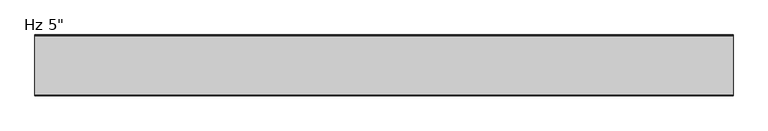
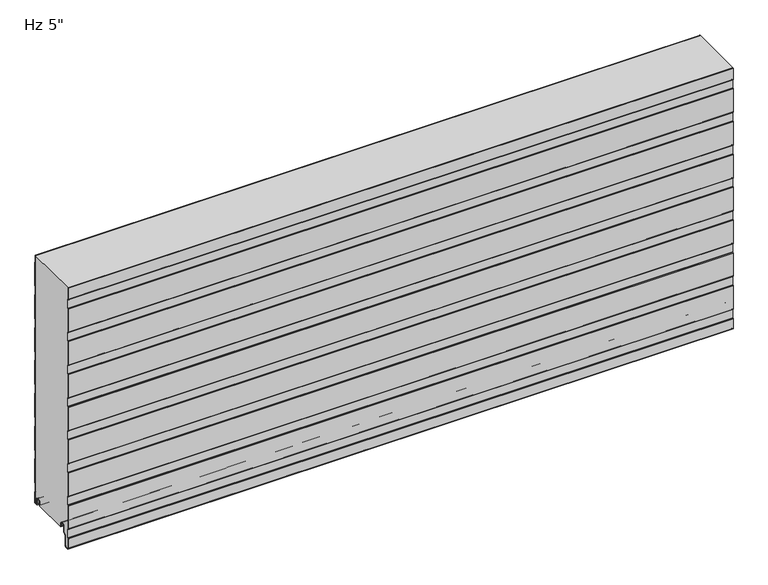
"""IFC4 building model written with IfcOpenShell, lengths in millimetres: plate geometry."""

from ifc_helpers import new_model, si_unit, point, frame, frame_2d, origin, place, context, project, spatial, polyline, circle_curve, trimmed, segment, composite_curve, outline, extrude, source, transform, mapped, element, save
from ifc_brep_helpers import plane_surface, cylinder_surface, revolved_surface, advanced_brep


def plate_4faf0529(model_context):
    return source(origin(), model_context, "Body", "SolidModel", [
        advanced_brep(
        [(-730.0, -17.0015368, 2.0313088), (-730.0, -18.00154, 1.0313116), (-730.0, -19.0015314, 2.0313088), (-730.0, -19.0015314, 6.0315125), (-730.0, -18.0015368, 6.0315125), (-730.0, -18.0015368, 8.7237223), (-730.0, -14.7015411, 12.023718), (-730.0, -10.3015499, 12.023718), (-730.0, -7.0015544, 8.7237225), (-730.0, -7.0015544, -1.6962564), (-730.0, -5.2315602, -3.4662506), (-730.0, -1.0000126, -3.4662506), (-730.0, -1.0000126, 21.034026), (-730.0, -2.2002516, 22.4196686), (-730.0, -2.2002516, 41.7948349), (-730.0, -1.0000209, 43.1804679), (-730.0, -1.0000209, 97.2338833), (-730.0, -2.2002516, 98.6195162), (-730.0, -2.2002516, 117.9946825), (-730.0, -1.0000209, 119.3803155), (-730.0, -1.0000209, 173.4337309), (-730.0, -2.2002516, 174.8193638), (-730.0, -2.2002516, 194.1945301), (-730.0, -1.0000209, 195.5801631), (-730.0, -1.0000209, 249.6335785), (-730.0, -2.2002516, 251.0192114), (-730.0, -2.2002516, 270.3943777), (-730.0, -1.0000209, 271.7800107), (-730.0, -1.0000209, 325.8334261), (-730.0, -2.2002516, 327.219059), (-730.0, -2.2002516, 346.5942253), (-730.0, -1.0000209, 347.9798583), (-730.0, -1.0000209, 402.0332737), (-730.0, -2.2002516, 403.4189066), (-730.0, -2.2002516, 422.7940729), (-730.0, -1.0000209, 424.1797059), (-730.0, -1.0000209, 478.2331213), (-730.0, -2.2002516, 479.6187542), (-730.0, -2.2002516, 498.9939205), (-730.0, -1.0000209, 500.3795535), (-730.0, -1.0000209, 554.4329689), (-730.0, -2.2002516, 555.8186018), (-730.0, -2.2002516, 571.2), (-730.0, -1.2002516, 571.2), (-730.0, -1.2002516, 556.1914823), (-730.0, -0.3418094, 555.2004346), (-730.0, -2.09e-05, 554.2838177), (-730.0, -2.09e-05, 500.5287046), (-730.0, -0.3418094, 499.6120877), (-730.0, -1.2002516, 498.6210401), (-730.0, -1.2002516, 479.9916347), (-730.0, -0.3418094, 479.000587), (-730.0, -2.09e-05, 478.0839701), (-730.0, -2.09e-05, 424.328857), (-730.0, -0.3418094, 423.4122401), (-730.0, -1.2002516, 422.4211925), (-730.0, -1.2002516, 403.7917871), (-730.0, -0.3418094, 402.8007394), (-730.0, -2.09e-05, 401.8841225), (-730.0, -2.09e-05, 348.1290094), (-730.0, -0.3418094, 347.2123925), (-730.0, -1.2002516, 346.2213449), (-730.0, -1.2002516, 327.5919395), (-730.0, -0.3418094, 326.6008918), (-730.0, -2.09e-05, 325.6842749), (-730.0, -2.09e-05, 271.9291618), (-730.0, -0.3418094, 271.0125449), (-730.0, -1.2002516, 270.0214973), (-730.0, -1.2002516, 251.3920919), (-730.0, -0.3418094, 250.4010442), (-730.0, -2.09e-05, 249.4844273), (-730.0, -2.09e-05, 195.7293142), (-730.0, -0.3418094, 194.8126973), (-730.0, -1.2002516, 193.8216497), (-730.0, -1.2002516, 175.1922443), (-730.0, -0.3418094, 174.2011966), (-730.0, -2.09e-05, 173.2845797), (-730.0, -2.09e-05, 119.5294666), (-730.0, -0.3418094, 118.6128497), (-730.0, -1.2002516, 117.6218021), (-730.0, -1.2002516, 98.9923967), (-730.0, -0.3418094, 98.001349), (-730.0, -2.09e-05, 97.0847321), (-730.0, -2.09e-05, 43.329619), (-730.0, -0.3418094, 42.4130021), (-730.0, -1.2002516, 41.4219545), (-730.0, -1.2002516, 22.7925491), (-730.0, -0.3418094, 21.8015014), (-730.0, -2.09e-05, 20.8847931), (-730.0, -1.26e-05, -3.0662545), (-730.0, -1.4000087, -4.4662506), (-730.0, -5.2315602, -4.4662506), (-730.0, -8.0015544, -1.6962564), (-730.0, -8.0015544, 8.7237225), (-730.0, -10.3015499, 11.023718), (-730.0, -14.7015411, 11.023718), (-730.0, -17.0015368, 8.7237223), (730.0, -17.0015368, 2.0313088), (730.0, -17.0015368, 8.7237223), (730.0, -14.7015411, 11.023718), (730.0, -10.3015499, 11.023718), (730.0, -8.0015544, 8.7237225), (730.0, -8.0015544, -1.6962564), (730.0, -5.2315602, -4.4662506), (730.0, -1.4000087, -4.4662506), (730.0, -1.26e-05, -3.0662545), (730.0, -1.26e-05, 20.8848845), (730.0, -0.3418094, 21.8015014), (730.0, -1.2002516, 22.7925491), (730.0, -1.2002516, 41.4219545), (730.0, -0.3418094, 42.4130021), (730.0, -2.09e-05, 43.329619), (730.0, -2.09e-05, 97.0847321), (730.0, -0.3418094, 98.001349), (730.0, -1.2002516, 98.9923967), (730.0, -1.2002516, 117.6218021), (730.0, -0.3418094, 118.6128497), (730.0, -2.09e-05, 119.5294666), (730.0, -2.09e-05, 173.2845797), (730.0, -0.3418094, 174.2011966), (730.0, -1.2002516, 175.1922443), (730.0, -1.2002516, 193.8216497), (730.0, -0.3418094, 194.8126973), (730.0, -2.09e-05, 195.7293142), (730.0, -2.09e-05, 249.4844273), (730.0, -0.3418094, 250.4010442), (730.0, -1.2002516, 251.3920919), (730.0, -1.2002516, 270.0214973), (730.0, -0.3418094, 271.0125449), (730.0, -2.09e-05, 271.9291618), (730.0, -2.09e-05, 325.6842749), (730.0, -0.3418094, 326.6008918), (730.0, -1.2002516, 327.5919395), (730.0, -1.2002516, 346.2213449), (730.0, -0.3418094, 347.2123925), (730.0, -2.09e-05, 348.1290094), (730.0, -2.09e-05, 401.8841225), (730.0, -0.3418094, 402.8007394), (730.0, -1.2002516, 403.7917871), (730.0, -1.2002516, 422.4211925), (730.0, -0.3418094, 423.4122401), (730.0, -2.09e-05, 424.328857), (730.0, -2.09e-05, 478.0839701), (730.0, -0.3418094, 479.000587), (730.0, -1.2002516, 479.9916347), (730.0, -1.2002516, 498.6210401), (730.0, -0.3418094, 499.6120877), (730.0, -2.09e-05, 500.5287046), (730.0, -2.09e-05, 554.2838177), (730.0, -0.3418094, 555.2004346), (730.0, -1.2002516, 556.1914823), (730.0, -1.2002516, 571.2), (730.0, -2.2002516, 571.2), (730.0, -2.2002516, 555.8186018), (730.0, -1.0000209, 554.4329689), (730.0, -1.0000209, 500.3795535), (730.0, -2.2002516, 498.9939205), (730.0, -2.2002516, 479.6187542), (730.0, -1.0000209, 478.2331213), (730.0, -1.0000209, 424.1797059), (730.0, -2.2002516, 422.7940729), (730.0, -2.2002516, 403.4189066), (730.0, -1.0000209, 402.0332737), (730.0, -1.0000209, 347.9798583), (730.0, -2.2002516, 346.5942253), (730.0, -2.2002516, 327.219059), (730.0, -1.0000209, 325.8334261), (730.0, -1.0000209, 271.7800107), (730.0, -2.2002516, 270.3943777), (730.0, -2.2002516, 251.0192114), (730.0, -1.0000209, 249.6335785), (730.0, -1.0000209, 195.5801631), (730.0, -2.2002516, 194.1945301), (730.0, -2.2002516, 174.8193638), (730.0, -1.0000209, 173.4337309), (730.0, -1.0000209, 119.3803155), (730.0, -2.2002516, 117.9946825), (730.0, -2.2002516, 98.6195162), (730.0, -1.0000209, 97.2338833), (730.0, -1.0000209, 43.1804679), (730.0, -2.2002516, 41.7948349), (730.0, -2.2002516, 22.4196686), (730.0, -1.0000126, 21.034026), (730.0, -1.0000126, -3.4662506), (730.0, -5.2315602, -3.4662506), (730.0, -7.0015544, -1.6962564), (730.0, -7.0015544, 8.7237225), (730.0, -10.3015499, 12.023718), (730.0, -14.7015411, 12.023718), (730.0, -18.0015368, 8.7237223), (730.0, -18.0015368, 6.0315125), (730.0, -19.0015314, 6.0315125), (730.0, -19.0015314, 2.0313088), (730.0, -18.0015401, 1.0313116)],
        [
            (0, 1, circle_curve(frame((-730.0, -18.0015341, 2.0313088), z_axis=(-1.0, 0.0, 0.0), x_axis=(0.0, 0.0, 1.0)), 0.9999973)),
            (1, 2, circle_curve(frame((-730.0, -18.0015342, 2.0313088), z_axis=(-1.0, 0.0, 0.0), x_axis=(0.0, 0.0, 1.0)), 0.9999972)),
            (2, 3),
            (3, 4),
            (4, 5),
            (5, 6, circle_curve(frame((-730.0, -14.7015411, 8.7237223), z_axis=(-1.0, 0.0, 0.0), x_axis=(0.0, 0.0, 1.0)), 3.2999957)),
            (6, 7),
            (7, 8, circle_curve(frame((-730.0, -10.3015499, 8.7237225), z_axis=(-1.0, 0.0, 0.0), x_axis=(0.0, 0.0, 1.0)), 3.2999955)),
            (8, 9),
            (9, 10, circle_curve(frame((-730.0, -5.2315602, -1.6962564), z_axis=(1.0, 0.0, 0.0), x_axis=(0.0, 0.0, 1.0)), 1.7699942)),
            (10, 11),
            (11, 12),
            (12, 13),
            (13, 14),
            (14, 15),
            (15, 16),
            (16, 17),
            (17, 18),
            (18, 19),
            (19, 20),
            (20, 21),
            (21, 22),
            (22, 23),
            (23, 24),
            (24, 25),
            (25, 26),
            (26, 27),
            (27, 28),
            (28, 29),
            (29, 30),
            (30, 31),
            (31, 32),
            (32, 33),
            (33, 34),
            (34, 35),
            (35, 36),
            (36, 37),
            (37, 38),
            (38, 39),
            (39, 40),
            (40, 41),
            (41, 42),
            (42, 43),
            (43, 44),
            (44, 45),
            (45, 46, circle_curve(frame((-730.0, -1.4000181, 554.2838177), z_axis=(-1.0, 0.0, 0.0), x_axis=(0.0, 0.0, 1.0)), 1.3999972)),
            (46, 47),
            (47, 48, circle_curve(frame((-730.0, -1.4000181, 500.5287046), z_axis=(-1.0, 0.0, 0.0), x_axis=(0.0, 0.0, 1.0)), 1.3999972)),
            (48, 49),
            (49, 50),
            (50, 51),
            (51, 52, circle_curve(frame((-730.0, -1.4000181, 478.0839701), z_axis=(-1.0, 0.0, 0.0), x_axis=(0.0, 0.0, 1.0)), 1.3999972)),
            (52, 53),
            (53, 54, circle_curve(frame((-730.0, -1.4000181, 424.328857), z_axis=(-1.0, 0.0, 0.0), x_axis=(0.0, 0.0, 1.0)), 1.3999972)),
            (54, 55),
            (55, 56),
            (56, 57),
            (57, 58, circle_curve(frame((-730.0, -1.4000181, 401.8841225), z_axis=(-1.0, 0.0, 0.0), x_axis=(0.0, 0.0, 1.0)), 1.3999972)),
            (58, 59),
            (59, 60, circle_curve(frame((-730.0, -1.4000181, 348.1290094), z_axis=(-1.0, 0.0, 0.0), x_axis=(0.0, 0.0, 1.0)), 1.3999972)),
            (60, 61),
            (61, 62),
            (62, 63),
            (63, 64, circle_curve(frame((-730.0, -1.4000181, 325.6842749), z_axis=(-1.0, 0.0, 0.0), x_axis=(0.0, 0.0, 1.0)), 1.3999972)),
            (64, 65),
            (65, 66, circle_curve(frame((-730.0, -1.4000181, 271.9291618), z_axis=(-1.0, 0.0, 0.0), x_axis=(0.0, 0.0, 1.0)), 1.3999972)),
            (66, 67),
            (67, 68),
            (68, 69),
            (69, 70, circle_curve(frame((-730.0, -1.4000181, 249.4844273), z_axis=(-1.0, 0.0, 0.0), x_axis=(0.0, 0.0, 1.0)), 1.3999972)),
            (70, 71),
            (71, 72, circle_curve(frame((-730.0, -1.4000181, 195.7293142), z_axis=(-1.0, 0.0, 0.0), x_axis=(0.0, 0.0, 1.0)), 1.3999972)),
            (72, 73),
            (73, 74),
            (74, 75),
            (75, 76, circle_curve(frame((-730.0, -1.4000181, 173.2845797), z_axis=(-1.0, 0.0, 0.0), x_axis=(0.0, 0.0, 1.0)), 1.3999972)),
            (76, 77),
            (77, 78, circle_curve(frame((-730.0, -1.4000181, 119.5294666), z_axis=(-1.0, 0.0, 0.0), x_axis=(0.0, 0.0, 1.0)), 1.3999972)),
            (78, 79),
            (79, 80),
            (80, 81),
            (81, 82, circle_curve(frame((-730.0, -1.4000181, 97.0847321), z_axis=(-1.0, 0.0, 0.0), x_axis=(0.0, 0.0, 1.0)), 1.3999972)),
            (82, 83),
            (83, 84, circle_curve(frame((-730.0, -1.4000181, 43.329619), z_axis=(-1.0, 0.0, 0.0), x_axis=(0.0, 0.0, 1.0)), 1.3999972)),
            (84, 85),
            (85, 86),
            (86, 87),
            (87, 88, circle_curve(frame((-730.0, -1.4000181, 20.8848845), z_axis=(-1.0, 0.0, 0.0), x_axis=(0.0, 0.0, 1.0)), 1.3999972)),
            (88, 89),
            (89, 90, circle_curve(frame((-730.0, -1.4000087, -3.0662545), z_axis=(-1.0, 0.0, 0.0), x_axis=(0.0, 0.0, 1.0)), 1.3999962)),
            (90, 91),
            (91, 92, circle_curve(frame((-730.0, -5.2315602, -1.6962564), z_axis=(-1.0, 0.0, 0.0), x_axis=(0.0, 0.0, 1.0)), 2.7699942)),
            (92, 93),
            (93, 94, circle_curve(frame((-730.0, -10.3015499, 8.7237225), z_axis=(1.0, 0.0, 0.0), x_axis=(0.0, 0.0, 1.0)), 2.2999955)),
            (94, 95),
            (95, 96, circle_curve(frame((-730.0, -14.7015411, 8.7237223), z_axis=(1.0, 0.0, 0.0), x_axis=(0.0, 0.0, 1.0)), 2.2999957)),
            (96, 0),
            (97, 98),
            (98, 99, circle_curve(frame((730.0, -14.7015411, 8.7237223), z_axis=(-1.0, 0.0, 0.0), x_axis=(0.0, 0.0, 1.0)), 2.2999957)),
            (99, 100),
            (100, 101, circle_curve(frame((730.0, -10.3015499, 8.7237225), z_axis=(-1.0, 0.0, 0.0), x_axis=(0.0, 0.0, 1.0)), 2.2999955)),
            (101, 102),
            (102, 103, circle_curve(frame((730.0, -5.2315602, -1.6962564), z_axis=(1.0, 0.0, 0.0), x_axis=(0.0, 0.0, 1.0)), 2.7699942)),
            (103, 104),
            (104, 105, circle_curve(frame((730.0, -1.4000087, -3.0662545), z_axis=(1.0, 0.0, 0.0), x_axis=(0.0, 0.0, 1.0)), 1.3999962)),
            (105, 106),
            (106, 107, circle_curve(frame((730.0, -1.4000181, 20.8848845), z_axis=(1.0, 0.0, 0.0), x_axis=(0.0, 0.0, 1.0)), 1.3999972)),
            (107, 108),
            (108, 109),
            (109, 110),
            (110, 111, circle_curve(frame((730.0, -1.4000181, 43.329619), z_axis=(1.0, 0.0, 0.0), x_axis=(0.0, 0.0, 1.0)), 1.3999972)),
            (111, 112),
            (112, 113, circle_curve(frame((730.0, -1.4000181, 97.0847321), z_axis=(1.0, 0.0, 0.0), x_axis=(0.0, 0.0, 1.0)), 1.3999972)),
            (113, 114),
            (114, 115),
            (115, 116),
            (116, 117, circle_curve(frame((730.0, -1.4000181, 119.5294666), z_axis=(1.0, 0.0, 0.0), x_axis=(0.0, 0.0, 1.0)), 1.3999972)),
            (117, 118),
            (118, 119, circle_curve(frame((730.0, -1.4000181, 173.2845797), z_axis=(1.0, 0.0, 0.0), x_axis=(0.0, 0.0, 1.0)), 1.3999972)),
            (119, 120),
            (120, 121),
            (121, 122),
            (122, 123, circle_curve(frame((730.0, -1.4000181, 195.7293142), z_axis=(1.0, 0.0, 0.0), x_axis=(0.0, 0.0, 1.0)), 1.3999972)),
            (123, 124),
            (124, 125, circle_curve(frame((730.0, -1.4000181, 249.4844273), z_axis=(1.0, 0.0, 0.0), x_axis=(0.0, 0.0, 1.0)), 1.3999972)),
            (125, 126),
            (126, 127),
            (127, 128),
            (128, 129, circle_curve(frame((730.0, -1.4000181, 271.9291618), z_axis=(1.0, 0.0, 0.0), x_axis=(0.0, 0.0, 1.0)), 1.3999972)),
            (129, 130),
            (130, 131, circle_curve(frame((730.0, -1.4000181, 325.6842749), z_axis=(1.0, 0.0, 0.0), x_axis=(0.0, 0.0, 1.0)), 1.3999972)),
            (131, 132),
            (132, 133),
            (133, 134),
            (134, 135, circle_curve(frame((730.0, -1.4000181, 348.1290094), z_axis=(1.0, 0.0, 0.0), x_axis=(0.0, 0.0, 1.0)), 1.3999972)),
            (135, 136),
            (136, 137, circle_curve(frame((730.0, -1.4000181, 401.8841225), z_axis=(1.0, 0.0, 0.0), x_axis=(0.0, 0.0, 1.0)), 1.3999972)),
            (137, 138),
            (138, 139),
            (139, 140),
            (140, 141, circle_curve(frame((730.0, -1.4000181, 424.328857), z_axis=(1.0, 0.0, 0.0), x_axis=(0.0, 0.0, 1.0)), 1.3999972)),
            (141, 142),
            (142, 143, circle_curve(frame((730.0, -1.4000181, 478.0839701), z_axis=(1.0, 0.0, 0.0), x_axis=(0.0, 0.0, 1.0)), 1.3999972)),
            (143, 144),
            (144, 145),
            (145, 146),
            (146, 147, circle_curve(frame((730.0, -1.4000181, 500.5287046), z_axis=(1.0, 0.0, 0.0), x_axis=(0.0, 0.0, 1.0)), 1.3999972)),
            (147, 148),
            (148, 149, circle_curve(frame((730.0, -1.4000181, 554.2838177), z_axis=(1.0, 0.0, 0.0), x_axis=(0.0, 0.0, 1.0)), 1.3999972)),
            (149, 150),
            (150, 151),
            (151, 152),
            (152, 153),
            (153, 154),
            (154, 155),
            (155, 156),
            (156, 157),
            (157, 158),
            (158, 159),
            (159, 160),
            (160, 161),
            (161, 162),
            (162, 163),
            (163, 164),
            (164, 165),
            (165, 166),
            (166, 167),
            (167, 168),
            (168, 169),
            (169, 170),
            (170, 171),
            (171, 172),
            (172, 173),
            (173, 174),
            (174, 175),
            (175, 176),
            (176, 177),
            (177, 178),
            (178, 179),
            (179, 180),
            (180, 181),
            (181, 182),
            (182, 183),
            (183, 184),
            (184, 185, circle_curve(frame((730.0, -5.2315602, -1.6962564), z_axis=(-1.0, 0.0, 0.0), x_axis=(0.0, 0.0, 1.0)), 1.7699942)),
            (185, 186),
            (186, 187, circle_curve(frame((730.0, -10.3015499, 8.7237225), z_axis=(1.0, 0.0, 0.0), x_axis=(0.0, 0.0, 1.0)), 3.2999955)),
            (187, 188),
            (188, 189, circle_curve(frame((730.0, -14.7015411, 8.7237223), z_axis=(1.0, 0.0, 0.0), x_axis=(0.0, 0.0, 1.0)), 3.2999957)),
            (189, 190),
            (190, 191),
            (191, 192),
            (192, 193, circle_curve(frame((730.0, -18.0015342, 2.0313088), z_axis=(1.0, 0.0, 0.0), x_axis=(0.0, 0.0, 1.0)), 0.9999972)),
            (193, 97, circle_curve(frame((730.0, -18.0015341, 2.0313088), z_axis=(1.0, 0.0, 0.0), x_axis=(0.0, 0.0, 1.0)), 0.9999973)),
            (96, 98),
            (97, 0),
            (95, 99),
            (94, 100),
            (93, 101),
            (92, 102),
            (91, 103),
            (90, 104),
            (89, 105),
            (88, 106),
            (87, 107),
            (86, 108),
            (85, 109),
            (84, 110),
            (83, 111),
            (82, 112),
            (81, 113),
            (80, 114),
            (79, 115),
            (78, 116),
            (77, 117),
            (76, 118),
            (75, 119),
            (74, 120),
            (73, 121),
            (72, 122),
            (71, 123),
            (70, 124),
            (69, 125),
            (68, 126),
            (67, 127),
            (66, 128),
            (65, 129),
            (64, 130),
            (63, 131),
            (62, 132),
            (61, 133),
            (60, 134),
            (59, 135),
            (58, 136),
            (57, 137),
            (56, 138),
            (55, 139),
            (54, 140),
            (53, 141),
            (52, 142),
            (51, 143),
            (50, 144),
            (49, 145),
            (48, 146),
            (47, 147),
            (46, 148),
            (45, 149),
            (44, 150),
            (43, 151),
            (152, 42),
            (41, 153),
            (40, 154),
            (39, 155),
            (38, 156),
            (37, 157),
            (36, 158),
            (35, 159),
            (34, 160),
            (33, 161),
            (32, 162),
            (31, 163),
            (30, 164),
            (29, 165),
            (28, 166),
            (27, 167),
            (26, 168),
            (25, 169),
            (24, 170),
            (23, 171),
            (22, 172),
            (21, 173),
            (20, 174),
            (19, 175),
            (18, 176),
            (17, 177),
            (16, 178),
            (15, 179),
            (14, 180),
            (13, 181),
            (12, 182),
            (11, 183),
            (10, 184),
            (9, 185),
            (8, 186),
            (7, 187),
            (6, 188),
            (5, 189),
            (4, 190),
            (3, 191),
            (2, 192),
            (1, 193),
        ],
        [
            plane_surface(frame((-730.0, -2.09e-05, 457.2), z_axis=(-1.0, 0.0, 0.0), x_axis=(0.0, 1.0, 0.0))),
            plane_surface(frame((730.0, -2.09e-05, 457.2), z_axis=(1.0, 0.0, 0.0), x_axis=(0.0, 1.0, 0.0))),
            plane_surface(frame((-730.0, -17.0015368, 2.0313088), z_axis=(0.0, 1.0, 0.0), x_axis=(1.0, 0.0, 0.0))),
            revolved_surface(polyline([(730.0, -14.7015411, 11.023718), (-730.0, -14.7015411, 11.023718)]), (-730.0, -14.7015411, 8.7237223), (1.0, 0.0, 0.0)),
            plane_surface(frame((-730.0, -14.7015411, 11.023718), z_axis=(0.0, 0.0, -1.0), x_axis=(1.0, 0.0, 0.0))),
            revolved_surface(polyline([(730.0, -10.3015499, 11.023717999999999), (-730.0, -10.3015499, 11.023717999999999)]), (-730.0, -10.3015499, 8.7237225), (1.0, 0.0, 0.0)),
            plane_surface(frame((-730.0, -8.0015544, 8.7237225), z_axis=(0.0, -1.0, 0.0), x_axis=(1.0, 0.0, 0.0))),
            cylinder_surface(frame((-730.0, -5.2315602, -1.6962564), z_axis=(-1.0, 0.0, 0.0), x_axis=(0.0, 0.0, 1.0)), 2.7699942),
            plane_surface(frame((-730.0, -5.2315602, -4.4662506), z_axis=(0.0, 0.0, -1.0), x_axis=(1.0, 0.0, 0.0))),
            cylinder_surface(frame((-730.0, -1.4000087, -3.0662545), z_axis=(-1.0, 0.0, 0.0), x_axis=(0.0, 0.0, 1.0)), 1.3999962),
            plane_surface(frame((-730.0, -1.26e-05, -3.0662545), z_axis=(0.0, 1.0, 0.0), x_axis=(1.0, 0.0, 0.0))),
            cylinder_surface(frame((-730.0, -1.4000181, 20.8848845), z_axis=(-1.0, 0.0, 0.0), x_axis=(0.0, 0.0, 1.0)), 1.3999972),
            plane_surface(frame((-730.0, -0.3418094, 21.8015014), z_axis=(0.0, 0.755864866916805, 0.6547276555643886), x_axis=(1.0, 0.0, 0.0))),
            plane_surface(frame((-730.0, -1.2002516, 32.1072518), z_axis=(0.0, 1.0, 0.0), x_axis=(1.0, 0.0, 0.0))),
            plane_surface(frame((-730.0, -1.2002516, 41.4219545), z_axis=(0.0, 0.755864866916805, -0.6547276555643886), x_axis=(1.0, 0.0, 0.0))),
            cylinder_surface(frame((-730.0, -1.4000181, 43.329619), z_axis=(-1.0, 0.0, 0.0), x_axis=(0.0, 0.0, 1.0)), 1.3999972),
            plane_surface(frame((-730.0, -2.09e-05, 43.329619), z_axis=(0.0, 1.0, 0.0), x_axis=(1.0, 0.0, 0.0))),
            cylinder_surface(frame((-730.0, -1.4000181, 97.0847321), z_axis=(-1.0, 0.0, 0.0), x_axis=(0.0, 0.0, 1.0)), 1.3999972),
            plane_surface(frame((-730.0, -0.3418094, 98.001349), z_axis=(0.0, 0.755864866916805, 0.6547276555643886), x_axis=(1.0, 0.0, 0.0))),
            plane_surface(frame((-730.0, -1.2002516, 108.3070994), z_axis=(0.0, 1.0, 0.0), x_axis=(1.0, 0.0, 0.0))),
            plane_surface(frame((-730.0, -1.2002516, 117.6218021), z_axis=(0.0, 0.755864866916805, -0.6547276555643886), x_axis=(1.0, 0.0, 0.0))),
            cylinder_surface(frame((-730.0, -1.4000181, 119.5294666), z_axis=(-1.0, 0.0, 0.0), x_axis=(0.0, 0.0, 1.0)), 1.3999972),
            plane_surface(frame((-730.0, -2.09e-05, 119.5294666), z_axis=(0.0, 1.0, 0.0), x_axis=(1.0, 0.0, 0.0))),
            cylinder_surface(frame((-730.0, -1.4000181, 173.2845797), z_axis=(-1.0, 0.0, 0.0), x_axis=(0.0, 0.0, 1.0)), 1.3999972),
            plane_surface(frame((-730.0, -0.3418094, 174.2011966), z_axis=(0.0, 0.755864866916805, 0.6547276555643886), x_axis=(1.0, 0.0, 0.0))),
            plane_surface(frame((-730.0, -1.2002516, 184.506947), z_axis=(0.0, 1.0, 0.0), x_axis=(1.0, 0.0, 0.0))),
            plane_surface(frame((-730.0, -1.2002516, 193.8216497), z_axis=(0.0, 0.755864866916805, -0.6547276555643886), x_axis=(1.0, 0.0, 0.0))),
            cylinder_surface(frame((-730.0, -1.4000181, 195.7293142), z_axis=(-1.0, 0.0, 0.0), x_axis=(0.0, 0.0, 1.0)), 1.3999972),
            plane_surface(frame((-730.0, -2.09e-05, 195.7293142), z_axis=(0.0, 1.0, 0.0), x_axis=(1.0, 0.0, 0.0))),
            cylinder_surface(frame((-730.0, -1.4000181, 249.4844273), z_axis=(-1.0, 0.0, 0.0), x_axis=(0.0, 0.0, 1.0)), 1.3999972),
            plane_surface(frame((-730.0, -0.3418094, 250.4010442), z_axis=(0.0, 0.755864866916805, 0.6547276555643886), x_axis=(1.0, 0.0, 0.0))),
            plane_surface(frame((-730.0, -1.2002516, 260.7067946), z_axis=(0.0, 1.0, 0.0), x_axis=(1.0, 0.0, 0.0))),
            plane_surface(frame((-730.0, -1.2002516, 270.0214973), z_axis=(0.0, 0.755864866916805, -0.6547276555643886), x_axis=(1.0, 0.0, 0.0))),
            cylinder_surface(frame((-730.0, -1.4000181, 271.9291618), z_axis=(-1.0, 0.0, 0.0), x_axis=(0.0, 0.0, 1.0)), 1.3999972),
            plane_surface(frame((-730.0, -2.09e-05, 271.9291618), z_axis=(0.0, 1.0, 0.0), x_axis=(1.0, 0.0, 0.0))),
            cylinder_surface(frame((-730.0, -1.4000181, 325.6842749), z_axis=(-1.0, 0.0, 0.0), x_axis=(0.0, 0.0, 1.0)), 1.3999972),
            plane_surface(frame((-730.0, -0.3418094, 326.6008918), z_axis=(0.0, 0.755864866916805, 0.6547276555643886), x_axis=(1.0, 0.0, 0.0))),
            plane_surface(frame((-730.0, -1.2002516, 336.9066422), z_axis=(0.0, 1.0, 0.0), x_axis=(1.0, 0.0, 0.0))),
            plane_surface(frame((-730.0, -1.2002516, 346.2213449), z_axis=(0.0, 0.755864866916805, -0.6547276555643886), x_axis=(1.0, 0.0, 0.0))),
            cylinder_surface(frame((-730.0, -1.4000181, 348.1290094), z_axis=(-1.0, 0.0, 0.0), x_axis=(0.0, 0.0, 1.0)), 1.3999972),
            plane_surface(frame((-730.0, -2.09e-05, 348.1290094), z_axis=(0.0, 1.0, 0.0), x_axis=(1.0, 0.0, 0.0))),
            cylinder_surface(frame((-730.0, -1.4000181, 401.8841225), z_axis=(-1.0, 0.0, 0.0), x_axis=(0.0, 0.0, 1.0)), 1.3999972),
            plane_surface(frame((-730.0, -0.3418094, 402.8007394), z_axis=(0.0, 0.755864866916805, 0.6547276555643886), x_axis=(1.0, 0.0, 0.0))),
            plane_surface(frame((-730.0, -1.2002516, 413.1064898), z_axis=(0.0, 1.0, 0.0), x_axis=(1.0, 0.0, 0.0))),
            plane_surface(frame((-730.0, -1.2002516, 422.4211925), z_axis=(0.0, 0.755864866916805, -0.6547276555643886), x_axis=(1.0, 0.0, 0.0))),
            cylinder_surface(frame((-730.0, -1.4000181, 424.328857), z_axis=(-1.0, 0.0, 0.0), x_axis=(0.0, 0.0, 1.0)), 1.3999972),
            plane_surface(frame((-730.0, -2.09e-05, 424.328857), z_axis=(0.0, 1.0, 0.0), x_axis=(1.0, 0.0, 0.0))),
            cylinder_surface(frame((-730.0, -1.4000181, 478.0839701), z_axis=(-1.0, 0.0, 0.0), x_axis=(0.0, 0.0, 1.0)), 1.3999972),
            plane_surface(frame((-730.0, -0.3418094, 479.000587), z_axis=(0.0, 0.755864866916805, 0.6547276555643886), x_axis=(1.0, 0.0, 0.0))),
            plane_surface(frame((-730.0, -1.2002516, 489.3063374), z_axis=(0.0, 1.0, 0.0), x_axis=(1.0, 0.0, 0.0))),
            plane_surface(frame((-730.0, -1.2002516, 498.6210401), z_axis=(0.0, 0.755864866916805, -0.6547276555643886), x_axis=(1.0, 0.0, 0.0))),
            cylinder_surface(frame((-730.0, -1.4000181, 500.5287046), z_axis=(-1.0, 0.0, 0.0), x_axis=(0.0, 0.0, 1.0)), 1.3999972),
            plane_surface(frame((-730.0, -2.09e-05, 500.5287046), z_axis=(0.0, 1.0, 0.0), x_axis=(1.0, 0.0, 0.0))),
            cylinder_surface(frame((-730.0, -1.4000181, 554.2838177), z_axis=(-1.0, 0.0, 0.0), x_axis=(0.0, 0.0, 1.0)), 1.3999972),
            plane_surface(frame((-730.0, -0.3418094, 555.2004346), z_axis=(0.0, 0.755864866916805, 0.6547276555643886), x_axis=(1.0, 0.0, 0.0))),
            plane_surface(frame((-730.0, -1.2002516, 565.506185), z_axis=(0.0, 1.0, 0.0), x_axis=(1.0, 0.0, 0.0))),
            plane_surface(frame((-730.0, -2.2002516, 575.1937681), z_axis=(0.0, -1.0, 0.0), x_axis=(1.0, 0.0, 0.0))),
            plane_surface(frame((-730.0, -2.2002516, 555.8186018), z_axis=(0.0, -0.755864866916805, -0.6547276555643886), x_axis=(1.0, 0.0, 0.0))),
            plane_surface(frame((-730.0, -1.0000209, 554.4329689), z_axis=(0.0, -1.0, 0.0), x_axis=(1.0, 0.0, 0.0))),
            plane_surface(frame((-730.0, -1.0000209, 500.3795535), z_axis=(0.0, -0.755864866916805, 0.6547276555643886), x_axis=(1.0, 0.0, 0.0))),
            plane_surface(frame((-730.0, -2.2002516, 498.9939205), z_axis=(0.0, -1.0, 0.0), x_axis=(1.0, 0.0, 0.0))),
            plane_surface(frame((-730.0, -2.2002516, 479.6187542), z_axis=(0.0, -0.755864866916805, -0.6547276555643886), x_axis=(1.0, 0.0, 0.0))),
            plane_surface(frame((-730.0, -1.0000209, 478.2331213), z_axis=(0.0, -1.0, 0.0), x_axis=(1.0, 0.0, 0.0))),
            plane_surface(frame((-730.0, -1.0000209, 424.1797059), z_axis=(0.0, -0.755864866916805, 0.6547276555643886), x_axis=(1.0, 0.0, 0.0))),
            plane_surface(frame((-730.0, -2.2002516, 422.7940729), z_axis=(0.0, -1.0, 0.0), x_axis=(1.0, 0.0, 0.0))),
            plane_surface(frame((-730.0, -2.2002516, 403.4189066), z_axis=(0.0, -0.755864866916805, -0.6547276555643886), x_axis=(1.0, 0.0, 0.0))),
            plane_surface(frame((-730.0, -1.0000209, 402.0332737), z_axis=(0.0, -1.0, 0.0), x_axis=(1.0, 0.0, 0.0))),
            plane_surface(frame((-730.0, -1.0000209, 347.9798583), z_axis=(0.0, -0.755864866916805, 0.6547276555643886), x_axis=(1.0, 0.0, 0.0))),
            plane_surface(frame((-730.0, -2.2002516, 346.5942253), z_axis=(0.0, -1.0, 0.0), x_axis=(1.0, 0.0, 0.0))),
            plane_surface(frame((-730.0, -2.2002516, 327.219059), z_axis=(0.0, -0.755864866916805, -0.6547276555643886), x_axis=(1.0, 0.0, 0.0))),
            plane_surface(frame((-730.0, -1.0000209, 325.8334261), z_axis=(0.0, -1.0, 0.0), x_axis=(1.0, 0.0, 0.0))),
            plane_surface(frame((-730.0, -1.0000209, 271.7800107), z_axis=(0.0, -0.755864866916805, 0.6547276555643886), x_axis=(1.0, 0.0, 0.0))),
            plane_surface(frame((-730.0, -2.2002516, 270.3943777), z_axis=(0.0, -1.0, 0.0), x_axis=(1.0, 0.0, 0.0))),
            plane_surface(frame((-730.0, -2.2002516, 251.0192114), z_axis=(0.0, -0.755864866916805, -0.6547276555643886), x_axis=(1.0, 0.0, 0.0))),
            plane_surface(frame((-730.0, -1.0000209, 249.6335785), z_axis=(0.0, -1.0, 0.0), x_axis=(1.0, 0.0, 0.0))),
            plane_surface(frame((-730.0, -1.0000209, 195.5801631), z_axis=(0.0, -0.755864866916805, 0.6547276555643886), x_axis=(1.0, 0.0, 0.0))),
            plane_surface(frame((-730.0, -2.2002516, 194.1945301), z_axis=(0.0, -1.0, 0.0), x_axis=(1.0, 0.0, 0.0))),
            plane_surface(frame((-730.0, -2.2002516, 174.8193638), z_axis=(0.0, -0.755864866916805, -0.6547276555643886), x_axis=(1.0, 0.0, 0.0))),
            plane_surface(frame((-730.0, -1.0000209, 173.4337309), z_axis=(0.0, -1.0, 0.0), x_axis=(1.0, 0.0, 0.0))),
            plane_surface(frame((-730.0, -1.0000209, 119.3803155), z_axis=(0.0, -0.755864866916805, 0.6547276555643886), x_axis=(1.0, 0.0, 0.0))),
            plane_surface(frame((-730.0, -2.2002516, 117.9946825), z_axis=(0.0, -1.0, 0.0), x_axis=(1.0, 0.0, 0.0))),
            plane_surface(frame((-730.0, -2.2002516, 98.6195162), z_axis=(0.0, -0.755864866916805, -0.6547276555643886), x_axis=(1.0, 0.0, 0.0))),
            plane_surface(frame((-730.0, -1.0000209, 97.2338833), z_axis=(0.0, -1.0, 0.0), x_axis=(1.0, 0.0, 0.0))),
            plane_surface(frame((-730.0, -1.0000209, 43.1804679), z_axis=(0.0, -0.755864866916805, 0.6547276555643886), x_axis=(1.0, 0.0, 0.0))),
            plane_surface(frame((-730.0, -2.2002516, 41.7948349), z_axis=(0.0, -1.0, 0.0), x_axis=(1.0, 0.0, 0.0))),
            plane_surface(frame((-730.0, -2.2002516, 22.4196686), z_axis=(0.0, -0.755864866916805, -0.6547276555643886), x_axis=(1.0, 0.0, 0.0))),
            plane_surface(frame((-730.0, -1.0000126, 21.034026), z_axis=(0.0, -1.0, 0.0), x_axis=(1.0, 0.0, 0.0))),
            plane_surface(frame((-730.0, -1.0000126, -3.4662506), z_axis=(0.0, 0.0, 1.0), x_axis=(1.0, 0.0, 0.0))),
            revolved_surface(polyline([(730.0, -5.2315602, 0.07373779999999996), (-730.0, -5.2315602, 0.07373779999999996)]), (-730.0, -5.2315602, -1.6962564), (1.0, 0.0, 0.0)),
            plane_surface(frame((-730.0, -7.0015544, -1.6962564), z_axis=(0.0, 1.0, 0.0), x_axis=(1.0, 0.0, 0.0))),
            cylinder_surface(frame((-730.0, -10.3015499, 8.7237225), z_axis=(-1.0, 0.0, 0.0), x_axis=(0.0, 0.0, 1.0)), 3.2999955),
            plane_surface(frame((-730.0, -10.3015499, 12.023718), z_axis=(0.0, 0.0, 1.0), x_axis=(1.0, 0.0, 0.0))),
            cylinder_surface(frame((-730.0, -14.7015411, 8.7237223), z_axis=(-1.0, 0.0, 0.0), x_axis=(0.0, 0.0, 1.0)), 3.2999957),
            plane_surface(frame((-730.0, -18.0015368, 8.7237223), z_axis=(0.0, -1.0, 0.0), x_axis=(1.0, 0.0, 0.0))),
            plane_surface(frame((-730.0, -18.0015368, 6.0315125), z_axis=(0.0, 0.0, 1.0), x_axis=(1.0, 0.0, 0.0))),
            plane_surface(frame((-730.0, -19.0015314, 6.0315125), z_axis=(0.0, -1.0, 0.0), x_axis=(1.0, 0.0, 0.0))),
            cylinder_surface(frame((-730.0, -18.0015342, 2.0313088), z_axis=(-1.0, 0.0, 0.0), x_axis=(0.0, 0.0, 1.0)), 0.9999972),
            cylinder_surface(frame((-730.0, -18.0015341, 2.0313088), z_axis=(-1.0, 0.0, 0.0), x_axis=(0.0, 0.0, 1.0)), 0.9999973),
            plane_surface(frame((730.0, 9.9999791, 571.2), z_axis=(0.0, 0.0, 1.0), x_axis=(-1.0, 0.0, 0.0))),
        ],
        [
            (0, [[1, 2, 3, 4, 5, 6, 7, 8, 9, 10, 11, 12, 13, 14, 15, 16, 17, 18, 19, 20, 21, 22, 23, 24, 25, 26, 27, 28, 29, 30, 31, 32, 33, 34, 35, 36, 37, 38, 39, 40, 41, 42, 43, 44, 45, 46, 47, 48, 49, 50, 51, 52, 53, 54, 55, 56, 57, 58, 59, 60, 61, 62, 63, 64, 65, 66, 67, 68, 69, 70, 71, 72, 73, 74, 75, 76, 77, 78, 79, 80, 81, 82, 83, 84, 85, 86, 87, 88, 89, 90, 91, 92, 93, 94, 95, 96, 97]]),
            (1, [[98, 99, 100, 101, 102, 103, 104, 105, 106, 107, 108, 109, 110, 111, 112, 113, 114, 115, 116, 117, 118, 119, 120, 121, 122, 123, 124, 125, 126, 127, 128, 129, 130, 131, 132, 133, 134, 135, 136, 137, 138, 139, 140, 141, 142, 143, 144, 145, 146, 147, 148, 149, 150, 151, 152, 153, 154, 155, 156, 157, 158, 159, 160, 161, 162, 163, 164, 165, 166, 167, 168, 169, 170, 171, 172, 173, 174, 175, 176, 177, 178, 179, 180, 181, 182, 183, 184, 185, 186, 187, 188, 189, 190, 191, 192, 193, 194]]),
            (2, [[195, -98, 196, -97]]),
            (3, [[197, -99, -195, -96]]),
            (4, [[198, -100, -197, -95]]),
            (5, [[199, -101, -198, -94]]),
            (6, [[200, -102, -199, -93]]),
            (7, [[201, -103, -200, -92]]),
            (8, [[202, -104, -201, -91]]),
            (9, [[203, -105, -202, -90]]),
            (10, [[204, -106, -203, -89]]),
            (11, [[205, -107, -204, -88]]),
            (12, [[206, -108, -205, -87]]),
            (13, [[207, -109, -206, -86]]),
            (14, [[208, -110, -207, -85]]),
            (15, [[209, -111, -208, -84]]),
            (16, [[210, -112, -209, -83]]),
            (17, [[211, -113, -210, -82]]),
            (18, [[212, -114, -211, -81]]),
            (19, [[213, -115, -212, -80]]),
            (20, [[214, -116, -213, -79]]),
            (21, [[215, -117, -214, -78]]),
            (22, [[216, -118, -215, -77]]),
            (23, [[217, -119, -216, -76]]),
            (24, [[218, -120, -217, -75]]),
            (25, [[219, -121, -218, -74]]),
            (26, [[220, -122, -219, -73]]),
            (27, [[221, -123, -220, -72]]),
            (28, [[222, -124, -221, -71]]),
            (29, [[223, -125, -222, -70]]),
            (30, [[224, -126, -223, -69]]),
            (31, [[225, -127, -224, -68]]),
            (32, [[226, -128, -225, -67]]),
            (33, [[227, -129, -226, -66]]),
            (34, [[228, -130, -227, -65]]),
            (35, [[229, -131, -228, -64]]),
            (36, [[230, -132, -229, -63]]),
            (37, [[231, -133, -230, -62]]),
            (38, [[232, -134, -231, -61]]),
            (39, [[233, -135, -232, -60]]),
            (40, [[234, -136, -233, -59]]),
            (41, [[235, -137, -234, -58]]),
            (42, [[236, -138, -235, -57]]),
            (43, [[237, -139, -236, -56]]),
            (44, [[238, -140, -237, -55]]),
            (45, [[239, -141, -238, -54]]),
            (46, [[240, -142, -239, -53]]),
            (47, [[241, -143, -240, -52]]),
            (48, [[242, -144, -241, -51]]),
            (49, [[243, -145, -242, -50]]),
            (50, [[244, -146, -243, -49]]),
            (51, [[245, -147, -244, -48]]),
            (52, [[246, -148, -245, -47]]),
            (53, [[247, -149, -246, -46]]),
            (54, [[248, -150, -247, -45]]),
            (55, [[-44, 249, -151, -248]]),
            (56, [[-153, 250, -42, 251]]),
            (57, [[252, -154, -251, -41]]),
            (58, [[253, -155, -252, -40]]),
            (59, [[254, -156, -253, -39]]),
            (60, [[255, -157, -254, -38]]),
            (61, [[256, -158, -255, -37]]),
            (62, [[257, -159, -256, -36]]),
            (63, [[258, -160, -257, -35]]),
            (64, [[259, -161, -258, -34]]),
            (65, [[260, -162, -259, -33]]),
            (66, [[261, -163, -260, -32]]),
            (67, [[262, -164, -261, -31]]),
            (68, [[263, -165, -262, -30]]),
            (69, [[264, -166, -263, -29]]),
            (70, [[265, -167, -264, -28]]),
            (71, [[266, -168, -265, -27]]),
            (72, [[267, -169, -266, -26]]),
            (73, [[268, -170, -267, -25]]),
            (74, [[269, -171, -268, -24]]),
            (75, [[270, -172, -269, -23]]),
            (76, [[271, -173, -270, -22]]),
            (77, [[272, -174, -271, -21]]),
            (78, [[273, -175, -272, -20]]),
            (79, [[274, -176, -273, -19]]),
            (80, [[275, -177, -274, -18]]),
            (81, [[276, -178, -275, -17]]),
            (82, [[277, -179, -276, -16]]),
            (83, [[278, -180, -277, -15]]),
            (84, [[279, -181, -278, -14]]),
            (85, [[280, -182, -279, -13]]),
            (86, [[281, -183, -280, -12]]),
            (87, [[282, -184, -281, -11]]),
            (88, [[283, -185, -282, -10]]),
            (89, [[284, -186, -283, -9]]),
            (90, [[285, -187, -284, -8]]),
            (91, [[286, -188, -285, -7]]),
            (92, [[287, -189, -286, -6]]),
            (93, [[288, -190, -287, -5]]),
            (94, [[289, -191, -288, -4]]),
            (95, [[290, -192, -289, -3]]),
            (96, [[291, -193, -290, -2]]),
            (97, [[-196, -194, -291, -1]]),
            (98, [[-250, -152, -249, -43]]),
        ],
    ),
        extrude(outline(composite_curve([segment(trimmed(circle_curve(frame_2d((-125.5998926, -10.6415934)), 1.3998661), [point((-126.9997587, -10.6415934))], [point((-126.5325165, -9.5976403))], False, "CARTESIAN"), True, "CONTINUOUS"), segment(polyline([(-126.5325165, -9.5976403), (-125.7997902, -8.8649141), (-125.7997902, 10.0260713), (-126.5327558, 10.7590369)]), True, "CONTINUOUS"), segment(trimmed(circle_curve(frame_2d((-125.6000446, 11.8030877)), 1.3999972), [point((-126.5327558, 10.7590369))], [point((-127.0000209, 11.810741))], False, "CARTESIAN"), True, "CONTINUOUS"), segment(polyline([(-127.0000209, 11.810741), (-127.0000209, 65.5582542)]), True, "CONTINUOUS"), segment(trimmed(circle_curve(frame_2d((-125.6000237, 65.5582542)), 1.3999972), [point((-127.0000209, 65.5582542))], [point((-126.5327349, 66.602305))], False, "CARTESIAN"), True, "CONTINUOUS"), segment(polyline([(-126.5327349, 66.602305), (-125.7997902, 67.3352497), (-125.7997902, 86.2259189), (-126.5327558, 86.9588845)]), True, "CONTINUOUS"), segment(trimmed(circle_curve(frame_2d((-125.6000446, 88.0029353)), 1.3999972), [point((-126.5327558, 86.9588845))], [point((-127.0000209, 88.0105886))], False, "CARTESIAN"), True, "CONTINUOUS"), segment(polyline([(-127.0000209, 88.0105886), (-127.0000209, 141.7581018)]), True, "CONTINUOUS"), segment(trimmed(circle_curve(frame_2d((-125.6000237, 141.7581018)), 1.3999972), [point((-127.0000209, 141.7581018))], [point((-126.5327349, 142.8021526))], False, "CARTESIAN"), True, "CONTINUOUS"), segment(polyline([(-126.5327349, 142.8021526), (-125.7997902, 143.5350973), (-125.7997902, 162.4257665), (-126.5327558, 163.1587321)]), True, "CONTINUOUS"), segment(trimmed(circle_curve(frame_2d((-125.6000446, 164.2027829)), 1.3999972), [point((-126.5327558, 163.1587321))], [point((-127.0000209, 164.2104362))], False, "CARTESIAN"), True, "CONTINUOUS"), segment(polyline([(-127.0000209, 164.2104362), (-127.0000209, 217.9579494)]), True, "CONTINUOUS"), segment(trimmed(circle_curve(frame_2d((-125.6000237, 217.9579494)), 1.3999972), [point((-127.0000209, 217.9579494))], [point((-126.5327349, 219.0020002))], False, "CARTESIAN"), True, "CONTINUOUS"), segment(polyline([(-126.5327349, 219.0020002), (-125.7997902, 219.7349449), (-125.7997902, 238.6256141), (-126.5327558, 239.3585797)]), True, "CONTINUOUS"), segment(trimmed(circle_curve(frame_2d((-125.6000446, 240.4026305)), 1.3999972), [point((-126.5327558, 239.3585797))], [point((-127.0000209, 240.4102838))], False, "CARTESIAN"), True, "CONTINUOUS"), segment(polyline([(-127.0000209, 240.4102838), (-127.0000209, 294.157797)]), True, "CONTINUOUS"), segment(trimmed(circle_curve(frame_2d((-125.6000237, 294.157797)), 1.3999972), [point((-127.0000209, 294.157797))], [point((-126.5327349, 295.2018478))], False, "CARTESIAN"), True, "CONTINUOUS"), segment(polyline([(-126.5327349, 295.2018478), (-125.7997902, 295.9347925), (-125.7997902, 314.8254617), (-126.5327558, 315.5584273)]), True, "CONTINUOUS"), segment(trimmed(circle_curve(frame_2d((-125.6000446, 316.6024781)), 1.3999972), [point((-126.5327558, 315.5584273))], [point((-127.0000209, 316.6101314))], False, "CARTESIAN"), True, "CONTINUOUS"), segment(polyline([(-127.0000209, 316.6101314), (-127.0000209, 370.3576446)]), True, "CONTINUOUS"), segment(trimmed(circle_curve(frame_2d((-125.6000237, 370.3576446)), 1.3999972), [point((-127.0000209, 370.3576446))], [point((-126.5327349, 371.4016954))], False, "CARTESIAN"), True, "CONTINUOUS"), segment(polyline([(-126.5327349, 371.4016954), (-125.7997902, 372.1346401), (-125.7997902, 391.0253093), (-126.5327558, 391.7582749)]), True, "CONTINUOUS"), segment(trimmed(circle_curve(frame_2d((-125.6000446, 392.8023257)), 1.3999972), [point((-126.5327558, 391.7582749))], [point((-127.0000209, 392.809979))], False, "CARTESIAN"), True, "CONTINUOUS"), segment(polyline([(-127.0000209, 392.809979), (-127.0000209, 446.5574922)]), True, "CONTINUOUS"), segment(trimmed(circle_curve(frame_2d((-125.6000237, 446.5574922)), 1.3999972), [point((-127.0000209, 446.5574922))], [point((-126.5327349, 447.601543))], False, "CARTESIAN"), True, "CONTINUOUS"), segment(polyline([(-126.5327349, 447.601543), (-125.7997902, 448.3344877), (-125.7997902, 467.2251569), (-126.5327558, 467.9581225)]), True, "CONTINUOUS"), segment(trimmed(circle_curve(frame_2d((-125.6000446, 469.0021733)), 1.3999972), [point((-126.5327558, 467.9581225))], [point((-127.0000209, 469.0098266))], False, "CARTESIAN"), True, "CONTINUOUS"), segment(polyline([(-127.0000209, 469.0098266), (-127.0000209, 522.7573398)]), True, "CONTINUOUS"), segment(trimmed(circle_curve(frame_2d((-125.6000237, 522.7573398)), 1.3999972), [point((-127.0000209, 522.7573398))], [point((-126.5327349, 523.8013906))], False, "CARTESIAN"), True, "CONTINUOUS"), segment(polyline([(-126.5327349, 523.8013906), (-125.7997902, 524.5343353), (-125.7997902, 543.4250045), (-126.5327558, 544.1579701)]), True, "CONTINUOUS"), segment(trimmed(circle_curve(frame_2d((-125.6000446, 545.2020209)), 1.3999972), [point((-126.5327558, 544.1579701))], [point((-127.0000209, 545.2096742))], False, "CARTESIAN"), True, "CONTINUOUS"), segment(polyline([(-127.0000209, 545.2096742), (-127.0000209, 571.2), (-126.0000209, 571.2), (-126.0000209, 545.0405554), (-124.7997902, 543.8403247), (-124.7997902, 524.1209122), (-126.0000209, 522.9206815), (-126.0000209, 468.8405497), (-124.7997902, 467.640319), (-124.7997902, 447.9209065), (-126.0000209, 446.7206758), (-126.0000209, 392.640544), (-124.7997902, 391.4403133), (-124.7997902, 371.7209008), (-126.0000209, 370.5206701), (-126.0000209, 316.4405383), (-124.7997902, 315.2403076), (-124.7997902, 295.5208951), (-126.0000209, 294.3206644), (-126.0000209, 240.2405326), (-124.7997902, 239.0403019), (-124.7997902, 219.3208894), (-126.0000209, 218.1206587), (-126.0000209, 164.0405269), (-124.7997902, 162.8402962), (-124.7997902, 143.1208837), (-126.0000209, 141.920653), (-126.0000209, 87.8405213), (-124.7997902, 86.6402905), (-124.7997902, 66.920878), (-126.0000209, 65.7206473), (-126.0000209, 11.6405156), (-124.7997902, 10.4402849), (-124.7997902, -9.2791277), (-125.9997587, -10.4790962), (-125.9997587, -32.4521176)]), True, "CONTINUOUS"), segment(trimmed(circle_curve(frame_2d((-123.4295195, -32.4521176)), 2.5702393), [point((-125.9997587, -32.4521176))], [point((-123.2054338, -35.0125699))], True, "CARTESIAN"), True, "CONTINUOUS"), segment(polyline([(-123.2054338, -35.0125699), (-118.2236129, -34.5765709)]), True, "CONTINUOUS"), segment(trimmed(circle_curve(frame_2d((-118.7050035, -31.9198392)), 2.6999926), [point((-118.2236129, -34.5765709))], [point((-116.0050109, -31.9198392))], True, "CARTESIAN"), True, "CONTINUOUS"), segment(polyline([(-116.0050109, -31.9198392), (-116.0050109, -9.8247096), (-110.5029398, -4.3226385)]), True, "CONTINUOUS"), segment(trimmed(circle_curve(frame_2d((-111.7050175, -3.1205608)), 1.6999946), [point((-110.5029398, -4.3226385))], [point((-110.0050229, -3.1205608))], True, "CARTESIAN"), True, "CONTINUOUS"), segment(polyline([(-110.0050229, -3.1205608), (-110.0050229, 8.6903283)]), True, "CONTINUOUS"), segment(trimmed(circle_curve(frame_2d((-106.6550276, 8.6903283)), 3.3499953), [point((-110.0050229, 8.6903283))], [point((-106.6550276, 12.0403236))], False, "CARTESIAN"), True, "CONTINUOUS"), segment(polyline([(-106.6550276, 12.0403236), (-102.2550364, 12.0403236)]), True, "CONTINUOUS"), segment(trimmed(circle_curve(frame_2d((-102.2550364, 8.6903283)), 3.3499953), [point((-102.2550364, 12.0403236))], [point((-98.9050411, 8.6903283))], False, "CARTESIAN"), True, "CONTINUOUS"), segment(polyline([(-98.9050411, 8.6903283), (-98.9050411, 5.9912173), (-97.5065623, 5.9912173), (-97.5065623, 2.2328239)]), True, "CONTINUOUS"), segment(trimmed(circle_curve(frame_2d((-98.7065589, 2.2313092)), 1.1999976), [point((-97.5065623, 2.2328239))], [point((-98.676037, 1.0316999))], False, "CARTESIAN"), True, "CONTINUOUS"), segment(trimmed(circle_curve(frame_2d((-98.7065589, 2.2313092)), 1.1999976), [point((-98.676037, 1.0316999))], [point((-99.9050411, 2.1710221))], False, "CARTESIAN"), True, "CONTINUOUS"), segment(polyline([(-99.9050411, 2.1710221), (-99.9050411, 8.6903283)]), True, "CONTINUOUS"), segment(trimmed(circle_curve(frame_2d((-102.2550364, 8.6903283)), 2.3499953), [point((-99.9050411, 8.6903283))], [point((-102.2550364, 11.0403236))], True, "CARTESIAN"), True, "CONTINUOUS"), segment(polyline([(-102.2550364, 11.0403236), (-106.6550276, 11.0403236)]), True, "CONTINUOUS"), segment(trimmed(circle_curve(frame_2d((-106.6550276, 8.6903283)), 2.3499953), [point((-106.6550276, 11.0403236))], [point((-109.0050229, 8.6903283))], True, "CARTESIAN"), True, "CONTINUOUS"), segment(polyline([(-109.0050229, 8.6903283), (-109.0050229, -3.1205608)]), True, "CONTINUOUS"), segment(trimmed(circle_curve(frame_2d((-111.7050175, -3.1205608)), 2.6999946), [point((-109.0050229, -3.1205608))], [point((-109.7958331, -5.0297453))], False, "CARTESIAN"), True, "CONTINUOUS"), segment(polyline([(-109.7958331, -5.0297453), (-114.6242505, -9.8581627)]), True, "CONTINUOUS"), segment(trimmed(circle_curve(frame_2d((-113.7050135, -10.7773997)), 1.2999974), [point((-114.6242505, -9.8581627))], [point((-115.0050109, -10.7773997))], True, "CARTESIAN"), True, "CONTINUOUS"), segment(polyline([(-115.0050109, -10.7773997), (-115.0050109, -31.9198392)]), True, "CONTINUOUS"), segment(trimmed(circle_curve(frame_2d((-118.7050035, -31.9198392)), 3.6999926), [point((-115.0050109, -31.9198392))], [point((-118.0942024, -35.5690675))], False, "CARTESIAN"), True, "CONTINUOUS"), segment(polyline([(-118.0942024, -35.5690675), (-123.1182491, -36.008762)]), True, "CONTINUOUS"), segment(trimmed(circle_curve(frame_2d((-123.4295195, -32.4521176)), 3.5702393), [point((-123.1182491, -36.008762))], [point((-126.9997587, -32.4521176))], False, "CARTESIAN"), True, "CONTINUOUS"), segment(polyline([(-126.9997587, -32.4521176), (-126.9997587, -10.6415934)]), True, "CONTINUOUS")], self_intersect=False)), frame((-730.0, 0.0, 0.0), z_axis=(1.0, 0.0, 0.0), x_axis=(0.0, 1.0, 0.0)), (0.0, 0.0, 1.0), 1460.0),
        extrude(outline(composite_curve([segment(trimmed(circle_curve(frame_2d((-98.7065589, 2.2313092)), 1.1999976), [point((-98.676037, 1.0316999))], [point((-97.5065623, 2.2328239))], True, "CARTESIAN"), True, "CONTINUOUS"), segment(polyline([(-97.5065623, 2.2328239), (-97.5065623, 5.9912173), (-98.9050411, 5.9912173), (-98.9050411, 8.6903283)]), True, "CONTINUOUS"), segment(trimmed(circle_curve(frame_2d((-102.2550364, 8.6903283)), 3.3499953), [point((-98.9050411, 8.6903283))], [point((-102.2550364, 12.0403236))], True, "CARTESIAN"), True, "CONTINUOUS"), segment(polyline([(-102.2550364, 12.0403236), (-106.6550276, 12.0403236)]), True, "CONTINUOUS"), segment(trimmed(circle_curve(frame_2d((-106.6550276, 8.6903283)), 3.3499953), [point((-106.6550276, 12.0403236))], [point((-110.0050229, 8.6903283))], True, "CARTESIAN"), True, "CONTINUOUS"), segment(polyline([(-110.0050229, 8.6903283), (-110.0050229, -3.1205608)]), True, "CONTINUOUS"), segment(trimmed(circle_curve(frame_2d((-111.7050175, -3.1205608)), 1.6999946), [point((-110.0050229, -3.1205608))], [point((-110.5029398, -4.3226385))], False, "CARTESIAN"), True, "CONTINUOUS"), segment(polyline([(-110.5029398, -4.3226385), (-116.0050109, -9.8247096), (-116.0050109, -31.9198392)]), True, "CONTINUOUS"), segment(trimmed(circle_curve(frame_2d((-118.7050035, -31.9198392)), 2.6999926), [point((-116.0050109, -31.9198392))], [point((-118.2236129, -34.5765709))], False, "CARTESIAN"), True, "CONTINUOUS"), segment(polyline([(-118.2236129, -34.5765709), (-123.2054338, -35.0125699)]), True, "CONTINUOUS"), segment(trimmed(circle_curve(frame_2d((-123.4295195, -32.4521176)), 2.5702393), [point((-123.2054338, -35.0125699))], [point((-125.9997587, -32.4521176))], False, "CARTESIAN"), True, "CONTINUOUS"), segment(polyline([(-125.9997587, -32.4521176), (-125.9997587, -10.4790962), (-124.7997902, -9.2791277), (-124.7997902, 10.4402849), (-126.0000209, 11.6405156), (-126.0000209, 65.7206473), (-124.7997902, 66.920878), (-124.7997902, 86.6402905), (-126.0000209, 87.8405213), (-126.0000209, 141.920653), (-124.7997902, 143.1208837), (-124.7997902, 162.8402962), (-126.0000209, 164.0405269), (-126.0000209, 218.1206587), (-124.7997902, 219.3208894), (-124.7997902, 239.0403019), (-126.0000209, 240.2405326), (-126.0000209, 294.3206644), (-124.7997902, 295.5208951), (-124.7997902, 315.2403076), (-126.0000209, 316.4405383), (-126.0000209, 370.5206701), (-124.7997902, 371.7209008), (-124.7997902, 391.4403133), (-126.0000209, 392.640544), (-126.0000209, 446.7206758), (-124.7997902, 447.9209065), (-124.7997902, 467.640319), (-126.0000209, 468.8405497), (-126.0000209, 522.9206815), (-124.7997902, 524.1209122), (-124.7997902, 543.8403247), (-126.0000209, 545.0405554), (-126.0000209, 571.2), (-2.2002516, 571.2), (-2.2002516, 555.8186019), (-1.0000209, 554.4329689), (-1.0000209, 500.3795535), (-2.2002516, 498.9939206), (-2.2002516, 479.6187543), (-1.0000209, 478.2331213), (-1.0000209, 424.1797059), (-2.2002516, 422.794073), (-2.2002516, 403.4189067), (-1.0000209, 402.0332737), (-1.0000209, 347.9798583), (-2.2002516, 346.5942254), (-2.2002516, 327.2190591), (-1.0000209, 325.8334261), (-1.0000209, 271.7800107), (-2.2002516, 270.3943778), (-2.2002516, 251.0192115), (-1.0000209, 249.6335785), (-1.0000209, 195.5801631), (-2.2002516, 194.1945302), (-2.2002516, 174.8193639), (-1.0000209, 173.4337309), (-1.0000209, 119.3803155), (-2.2002516, 117.9946826), (-2.2002516, 98.6195163), (-1.0000209, 97.2338833), (-1.0000209, 43.1804679), (-2.2002516, 41.794835), (-2.2002516, 22.4196687), (-1.0000126, 21.034026), (-1.0000126, -3.4662506), (-5.2315599, -3.4662506)]), True, "CONTINUOUS"), segment(trimmed(circle_curve(frame_2d((-5.2315599, -1.6962564)), 1.7699942), [point((-5.2315599, -3.4662506))], [point((-7.001554, -1.6962564))], False, "CARTESIAN"), True, "CONTINUOUS"), segment(polyline([(-7.001554, -1.6962564), (-7.001554, 8.7237222)]), True, "CONTINUOUS"), segment(trimmed(circle_curve(frame_2d((-10.3015499, 8.7237222)), 3.2999959), [point((-7.001554, 8.7237222))], [point((-10.3015499, 12.023718))], True, "CARTESIAN"), True, "CONTINUOUS"), segment(polyline([(-10.3015499, 12.023718), (-14.7015411, 12.023718)]), True, "CONTINUOUS"), segment(trimmed(circle_curve(frame_2d((-14.7015411, 8.7237223)), 3.2999957), [point((-14.7015411, 12.023718))], [point((-18.0015368, 8.7237223))], True, "CARTESIAN"), True, "CONTINUOUS"), segment(polyline([(-18.0015368, 8.7237223), (-18.0015368, 6.0315125), (-19.0015314, 6.0315125), (-19.0015314, 2.0313089)]), True, "CONTINUOUS"), segment(trimmed(circle_curve(frame_2d((-18.0015342, 2.0313089)), 0.9999972), [point((-19.0015314, 2.0313089))], [point((-18.0015401, 1.0313117))], True, "CARTESIAN"), True, "CONTINUOUS"), segment(polyline([(-18.0015401, 1.0313117), (-19.0328517, 0.0), (-97.6443371, 0.0), (-98.676037, 1.0316999)]), True, "CONTINUOUS")], self_intersect=False)), frame((-730.0, 0.0, 0.0), z_axis=(1.0, 0.0, 0.0), x_axis=(0.0, 1.0, 0.0)), (0.0, 0.0, 1.0), 1460.0),
    ])


if __name__ == "__main__":
    model = new_model("IFC4")
    model_context = context("Model", 3, world=origin())
    ifc_project = project(units=[si_unit("LENGTHUNIT", "METRE", prefix="MILLI")], contexts=[model_context])
    site = spatial("IfcSite", under=ifc_project)
    building = spatial("IfcBuilding", under=site)
    placement = place(None, origin())
    plate_shape = plate_4faf0529(model_context)
    element("IfcPlate", 1, ObjectType="KIP-36-Karrier-KP-R19-CP-Hz-SL3-8in_SL : Hz 5\"", at=placement, inside=building, context=model_context, shape_type="MappedRepresentation", body=[
        mapped(plate_shape, transform((0.0, 0.0, 0.0), x_axis=(1.0, 0.0, 0.0), y_axis=(0.0, 1.0, 0.0), z_axis=(0.0, 0.0, 1.0))),
    ])
    save(model, "model.ifc")
